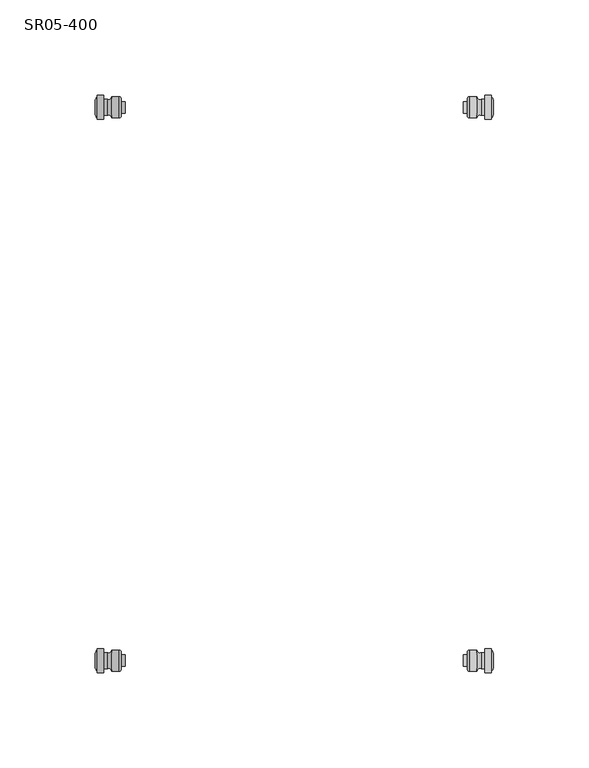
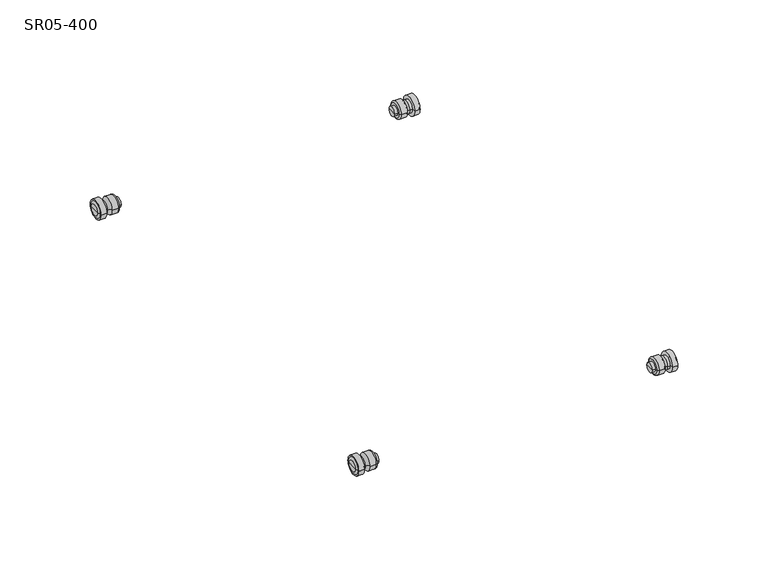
"""IFC4 building model written with IfcOpenShell, lengths in millimetres: proxy geometry, Уголки : SR05-400."""

from ifc_helpers import new_model, si_unit, point, frame, origin, place, context, project, spatial, circle_curve, ellipse_curve, trimmed, source, transform, mapped, element, save
from ifc_brep_helpers import plane_surface, cylinder_surface, revolved_surface, advanced_brep


def sr05_400_26692d24(model_context):
    return source(origin(), model_context, "Body", "AdvancedBrep", [
        advanced_brep(
        [(104.3500066, -145.0, 24.0), (104.3500066, -148.4999948, 24.0), (104.3500066, -141.5000052, 24.0), (88.7499958, -142.0000014, 24.0), (88.7499958, -147.9999986, 24.0), (88.7499958, -145.0, 24.0), (90.7999933, -142.0000014, 24.0), (90.7999933, -147.9999986, 24.0), (90.7999933, -140.5000058, 24.0), (90.7999933, -149.4999942, 24.0), (91.7999994, -139.5000052, 24.0), (91.7999994, -150.4999948, 24.0), (95.7999994, -139.5000038, 24.0), (95.7999994, -150.4999962, 24.0), (97.9999959, -140.8266569, 24.0), (97.9999959, -149.1733431, 24.0), (100.0, -138.7499985, 24.0), (100.0, -151.2500015, 24.0), (100.0, -149.1733431, 24.0), (100.0, -140.8266569, 24.0), (103.4999996, -138.7499985, 24.0), (103.4999996, -151.2500015, 24.0), (103.4999996, -139.6218414, 24.0), (103.4999996, -150.3781586, 24.0)],
        [
            (0, 1),
            (1, 2, circle_curve(frame((104.3500066, -145.0, 24.0), z_axis=(1.0, 0.0, 0.0), x_axis=(0.0, -1.0, 0.0)), 3.4999948)),
            (2, 0),
            (2, 1, circle_curve(frame((104.3500066, -145.0, 24.0), z_axis=(1.0, 0.0, 0.0), x_axis=(0.0, -1.0, 0.0)), 3.4999948)),
            (3, 4, circle_curve(frame((88.7499958, -145.0, 24.0), z_axis=(-1.0, 0.0, 0.0), x_axis=(0.0, -1.0, 0.0)), 2.9999986)),
            (4, 5),
            (5, 3),
            (4, 3, circle_curve(frame((88.7499958, -145.0, 24.0), z_axis=(-1.0, 0.0, 0.0), x_axis=(0.0, -1.0, 0.0)), 2.9999986)),
            (6, 7, circle_curve(frame((90.7999933, -145.0, 24.0), z_axis=(-1.0, 0.0, 0.0), x_axis=(0.0, -1.0, 0.0)), 2.9999986)),
            (7, 4),
            (3, 6),
            (7, 6, circle_curve(frame((90.7999933, -145.0, 24.0), z_axis=(-1.0, 0.0, 0.0), x_axis=(0.0, -1.0, 0.0)), 2.9999986)),
            (8, 9, circle_curve(frame((90.7999933, -145.0, 24.0), z_axis=(-1.0, 0.0, 0.0), x_axis=(0.0, -1.0, 0.0)), 4.4999942)),
            (9, 7),
            (6, 8),
            (9, 8, circle_curve(frame((90.7999933, -145.0, 24.0), z_axis=(-1.0, 0.0, 0.0), x_axis=(0.0, -1.0, 0.0)), 4.4999942)),
            (10, 11, circle_curve(frame((91.7999994, -145.0, 24.0), z_axis=(-1.0, 0.0, 0.0), x_axis=(0.0, -1.0, 0.0)), 5.4999948)),
            (11, 9, circle_curve(frame((91.7999994, -149.4999948, 24.0), z_axis=(0.0, 0.0, -1.0), x_axis=(0.0, 1.0, 0.0)), 1.0)),
            (8, 10, circle_curve(frame((91.7999994, -140.5000052, 24.0), z_axis=(0.0, 0.0, -1.0), x_axis=(0.0, -1.0, 0.0)), 1.0)),
            (11, 10, circle_curve(frame((91.7999994, -145.0, 24.0), z_axis=(-1.0, 0.0, 0.0), x_axis=(0.0, -1.0, 0.0)), 5.4999948)),
            (12, 13, circle_curve(frame((95.7999994, -145.0, 24.0), z_axis=(-1.0, 0.0, 0.0), x_axis=(0.0, -1.0, 0.0)), 5.4999962)),
            (13, 11),
            (10, 12),
            (13, 12, circle_curve(frame((95.7999994, -145.0, 24.0), z_axis=(-1.0, 0.0, 0.0), x_axis=(0.0, -1.0, 0.0)), 5.4999962)),
            (14, 15, circle_curve(frame((97.9999959, -145.0, 24.0), z_axis=(-1.0, 0.0, 0.0), x_axis=(0.0, -1.0, 0.0)), 4.1733431)),
            (15, 13, circle_curve(frame((97.2999994, -150.4999948, 24.0), z_axis=(0.0, 0.0, 1.0), x_axis=(0.0, 1.0, 0.0)), 1.5)),
            (12, 14, circle_curve(frame((97.2999994, -139.5000052, 24.0), z_axis=(0.0, 0.0, 1.0), x_axis=(0.0, -1.0, 0.0)), 1.5)),
            (15, 14, circle_curve(frame((97.9999959, -145.0, 24.0), z_axis=(-1.0, 0.0, 0.0), x_axis=(0.0, -1.0, 0.0)), 4.1733431)),
            (16, 17, circle_curve(frame((100.0, -145.0, 24.0), z_axis=(-1.0, 0.0, 0.0), x_axis=(0.0, -1.0, 0.0)), 6.2500015)),
            (17, 18),
            (18, 19, circle_curve(frame((100.0, -145.0, 24.0), z_axis=(1.0, 0.0, 0.0), x_axis=(0.0, -1.0, 0.0)), 4.1733431)),
            (19, 16),
            (17, 16, circle_curve(frame((100.0, -145.0, 24.0), z_axis=(-1.0, 0.0, 0.0), x_axis=(0.0, -1.0, 0.0)), 6.2500015)),
            (19, 18, circle_curve(frame((100.0, -145.0, 24.0), z_axis=(1.0, 0.0, 0.0), x_axis=(0.0, -1.0, 0.0)), 4.1733431)),
            (20, 21, circle_curve(frame((103.4999996, -145.0, 24.0), z_axis=(-1.0, 0.0, 0.0), x_axis=(0.0, -1.0, 0.0)), 6.2500015)),
            (21, 17),
            (16, 20),
            (21, 20, circle_curve(frame((103.4999996, -145.0, 24.0), z_axis=(-1.0, 0.0, 0.0), x_axis=(0.0, -1.0, 0.0)), 6.2500015)),
            (22, 23, circle_curve(frame((103.4999996, -145.0, 24.0), z_axis=(-1.0, 0.0, 0.0), x_axis=(0.0, -1.0, 0.0)), 5.3781586)),
            (23, 21),
            (20, 22),
            (23, 22, circle_curve(frame((103.4999996, -145.0, 24.0), z_axis=(-1.0, 0.0, 0.0), x_axis=(0.0, -1.0, 0.0)), 5.3781586)),
            (1, 23, circle_curve(frame((101.8499994, -148.4999948, 24.0), z_axis=(0.0, 0.0, -1.0), x_axis=(0.0, 1.0, 0.0)), 2.5)),
            (22, 2, circle_curve(frame((101.8499994, -141.5000052, 24.0), z_axis=(0.0, 0.0, -1.0), x_axis=(0.0, -1.0, 0.0)), 2.5)),
            (18, 15),
            (14, 19),
        ],
        [
            plane_surface(frame((104.3500066, -145.0, 24.0), z_axis=(1.0, 0.0, 0.0), x_axis=(0.0, -1.0, 0.0))),
            plane_surface(frame((88.7499958, -145.0, 24.0), z_axis=(-1.0, 0.0, 0.0), x_axis=(0.0, -1.0, 0.0))),
            cylinder_surface(frame((-1900.0, -145.0, 24.0), z_axis=(1.0, 0.0, 0.0), x_axis=(0.0, -1.0, 0.0)), 2.9999986),
            plane_surface(frame((90.7999933, -145.0, 24.0), z_axis=(-1.0, 0.0, 0.0), x_axis=(0.0, -1.0, 0.0))),
            revolved_surface(trimmed(ellipse_curve(frame((91.7999994, -149.4999948, 24.0), z_axis=(0.0, 0.0, 1.0), x_axis=(0.0, 1.0, 0.0)), 1.0, 1.0), [point((90.7999994, -149.4999948, 24.0))], [point((91.7999994, -150.4999948, 24.0))], True, "CARTESIAN"), (-1900.0, -145.0, 24.0), (1.0, 0.0, 0.0)),
            cylinder_surface(frame((-1900.0, -145.0, 24.0), z_axis=(1.0, 0.0, 0.0), x_axis=(0.0, -1.0, 0.0)), 5.4999962),
            revolved_surface(trimmed(ellipse_curve(frame((97.2999994, -150.4999948, 24.0), z_axis=(0.0, 0.0, -1.0), x_axis=(0.0, 1.0, 0.0)), 1.5, 1.5), [point((95.7999994, -150.4999962, 24.0))], [point((97.9999959, -149.1733431, 24.0))], True, "CARTESIAN"), (-1900.0, -145.0, 24.0), (1.0, 0.0, 0.0)),
            plane_surface(frame((100.0, -145.0, 24.0), z_axis=(-1.0, 0.0, 0.0), x_axis=(0.0, -1.0, 0.0))),
            cylinder_surface(frame((-1900.0, -145.0, 24.0), z_axis=(1.0, 0.0, 0.0), x_axis=(0.0, -1.0, 0.0)), 6.2500015),
            plane_surface(frame((103.4999996, -145.0, 24.0), z_axis=(1.0, 0.0, 0.0), x_axis=(0.0, -1.0, 0.0))),
            revolved_surface(trimmed(ellipse_curve(frame((101.8499994, -148.4999948, 24.0), z_axis=(0.0, 0.0, 1.0), x_axis=(0.0, 1.0, 0.0)), 2.5, 2.5), [point((103.4999996, -150.3781586, 24.0))], [point((104.3499994, -148.4999948, 24.0))], True, "CARTESIAN"), (-1900.0, -145.0, 24.0), (1.0, 0.0, 0.0)),
            cylinder_surface(frame((-1900.0, -145.0, 24.0), z_axis=(1.0, 0.0, 0.0), x_axis=(0.0, -1.0, 0.0)), 4.1733431),
        ],
        [
            (0, [[1, 2, 3]]),
            (0, [[-3, 4, -1]]),
            (1, [[5, 6, 7]]),
            (1, [[8, -7, -6]]),
            (2, [[9, 10, -5, 11]]),
            (2, [[12, -11, -8, -10]]),
            (3, [[13, 14, -9, 15]]),
            (3, [[16, -15, -12, -14]]),
            (4, [[17, 18, -13, 19]]),
            (4, [[20, -19, -16, -18]]),
            (5, [[21, 22, -17, 23]]),
            (5, [[24, -23, -20, -22]]),
            (6, [[25, 26, -21, 27]]),
            (6, [[28, -27, -24, -26]]),
            (7, [[29, 30, 31, 32]]),
            (7, [[33, -32, 34, -30]]),
            (8, [[35, 36, -29, 37]]),
            (8, [[38, -37, -33, -36]]),
            (9, [[39, 40, -35, 41]]),
            (9, [[42, -41, -38, -40]]),
            (10, [[-2, 43, -39, 44]]),
            (10, [[-4, -44, -42, -43]]),
            (11, [[-31, 45, -25, 46]]),
            (11, [[-34, -46, -28, -45]]),
        ],
    ),
        advanced_brep(
        [(104.3500066, 145.0, 24.0), (104.3500066, 141.5000052, 24.0), (104.3500066, 148.4999948, 24.0), (88.7499958, 147.9999986, 24.0), (88.7499958, 142.0000014, 24.0), (88.7499958, 145.0, 24.0), (90.7999933, 147.9999986, 24.0), (90.7999933, 142.0000014, 24.0), (90.7999933, 149.4999942, 24.0), (90.7999933, 140.5000058, 24.0), (91.7999994, 150.4999948, 24.0), (91.7999994, 139.5000052, 24.0), (95.7999994, 150.4999962, 24.0), (95.7999994, 139.5000038, 24.0), (97.9999959, 149.1733431, 24.0), (97.9999959, 140.8266569, 24.0), (100.0, 151.2500015, 24.0), (100.0, 138.7499985, 24.0), (100.0, 140.8266569, 24.0), (100.0, 149.1733431, 24.0), (103.4999996, 151.2500015, 24.0), (103.4999996, 138.7499985, 24.0), (103.4999996, 150.3781586, 24.0), (103.4999996, 139.6218414, 24.0)],
        [
            (0, 1),
            (1, 2, circle_curve(frame((104.3500066, 145.0, 24.0), z_axis=(1.0, 0.0, 0.0), x_axis=(0.0, -1.0, 0.0)), 3.4999948)),
            (2, 0),
            (2, 1, circle_curve(frame((104.3500066, 145.0, 24.0), z_axis=(1.0, 0.0, 0.0), x_axis=(0.0, -1.0, 0.0)), 3.4999948)),
            (3, 4, circle_curve(frame((88.7499958, 145.0, 24.0), z_axis=(-1.0, 0.0, 0.0), x_axis=(0.0, -1.0, 0.0)), 2.9999986)),
            (4, 5),
            (5, 3),
            (4, 3, circle_curve(frame((88.7499958, 145.0, 24.0), z_axis=(-1.0, 0.0, 0.0), x_axis=(0.0, -1.0, 0.0)), 2.9999986)),
            (6, 7, circle_curve(frame((90.7999933, 145.0, 24.0), z_axis=(-1.0, 0.0, 0.0), x_axis=(0.0, -1.0, 0.0)), 2.9999986)),
            (7, 4),
            (3, 6),
            (7, 6, circle_curve(frame((90.7999933, 145.0, 24.0), z_axis=(-1.0, 0.0, 0.0), x_axis=(0.0, -1.0, 0.0)), 2.9999986)),
            (8, 9, circle_curve(frame((90.7999933, 145.0, 24.0), z_axis=(-1.0, 0.0, 0.0), x_axis=(0.0, -1.0, 0.0)), 4.4999942)),
            (9, 7),
            (6, 8),
            (9, 8, circle_curve(frame((90.7999933, 145.0, 24.0), z_axis=(-1.0, 0.0, 0.0), x_axis=(0.0, -1.0, 0.0)), 4.4999942)),
            (10, 11, circle_curve(frame((91.7999994, 145.0, 24.0), z_axis=(-1.0, 0.0, 0.0), x_axis=(0.0, -1.0, 0.0)), 5.4999948)),
            (11, 9, circle_curve(frame((91.7999994, 140.5000052, 24.0), z_axis=(0.0, 0.0, -1.0), x_axis=(0.0, 1.0, 0.0)), 1.0)),
            (8, 10, circle_curve(frame((91.7999994, 149.4999948, 24.0), z_axis=(0.0, 0.0, -1.0), x_axis=(0.0, -1.0, 0.0)), 1.0)),
            (11, 10, circle_curve(frame((91.7999994, 145.0, 24.0), z_axis=(-1.0, 0.0, 0.0), x_axis=(0.0, -1.0, 0.0)), 5.4999948)),
            (12, 13, circle_curve(frame((95.7999994, 145.0, 24.0), z_axis=(-1.0, 0.0, 0.0), x_axis=(0.0, -1.0, 0.0)), 5.4999962)),
            (13, 11),
            (10, 12),
            (13, 12, circle_curve(frame((95.7999994, 145.0, 24.0), z_axis=(-1.0, 0.0, 0.0), x_axis=(0.0, -1.0, 0.0)), 5.4999962)),
            (14, 15, circle_curve(frame((97.9999959, 145.0, 24.0), z_axis=(-1.0, 0.0, 0.0), x_axis=(0.0, -1.0, 0.0)), 4.1733431)),
            (15, 13, circle_curve(frame((97.2999994, 139.5000052, 24.0), z_axis=(0.0, 0.0, 1.0), x_axis=(0.0, 1.0, 0.0)), 1.5)),
            (12, 14, circle_curve(frame((97.2999994, 150.4999948, 24.0), z_axis=(0.0, 0.0, 1.0), x_axis=(0.0, -1.0, 0.0)), 1.5)),
            (15, 14, circle_curve(frame((97.9999959, 145.0, 24.0), z_axis=(-1.0, 0.0, 0.0), x_axis=(0.0, -1.0, 0.0)), 4.1733431)),
            (16, 17, circle_curve(frame((100.0, 145.0, 24.0), z_axis=(-1.0, 0.0, 0.0), x_axis=(0.0, -1.0, 0.0)), 6.2500015)),
            (17, 18),
            (18, 19, circle_curve(frame((100.0, 145.0, 24.0), z_axis=(1.0, 0.0, 0.0), x_axis=(0.0, -1.0, 0.0)), 4.1733431)),
            (19, 16),
            (17, 16, circle_curve(frame((100.0, 145.0, 24.0), z_axis=(-1.0, 0.0, 0.0), x_axis=(0.0, -1.0, 0.0)), 6.2500015)),
            (19, 18, circle_curve(frame((100.0, 145.0, 24.0), z_axis=(1.0, 0.0, 0.0), x_axis=(0.0, -1.0, 0.0)), 4.1733431)),
            (20, 21, circle_curve(frame((103.4999996, 145.0, 24.0), z_axis=(-1.0, 0.0, 0.0), x_axis=(0.0, -1.0, 0.0)), 6.2500015)),
            (21, 17),
            (16, 20),
            (21, 20, circle_curve(frame((103.4999996, 145.0, 24.0), z_axis=(-1.0, 0.0, 0.0), x_axis=(0.0, -1.0, 0.0)), 6.2500015)),
            (22, 23, circle_curve(frame((103.4999996, 145.0, 24.0), z_axis=(-1.0, 0.0, 0.0), x_axis=(0.0, -1.0, 0.0)), 5.3781586)),
            (23, 21),
            (20, 22),
            (23, 22, circle_curve(frame((103.4999996, 145.0, 24.0), z_axis=(-1.0, 0.0, 0.0), x_axis=(0.0, -1.0, 0.0)), 5.3781586)),
            (1, 23, circle_curve(frame((101.8499994, 141.5000052, 24.0), z_axis=(0.0, 0.0, -1.0), x_axis=(0.0, 1.0, 0.0)), 2.5)),
            (22, 2, circle_curve(frame((101.8499994, 148.4999948, 24.0), z_axis=(0.0, 0.0, -1.0), x_axis=(0.0, -1.0, 0.0)), 2.5)),
            (18, 15),
            (14, 19),
        ],
        [
            plane_surface(frame((104.3500066, 145.0, 24.0), z_axis=(1.0, 0.0, 0.0), x_axis=(0.0, -1.0, 0.0))),
            plane_surface(frame((88.7499958, 145.0, 24.0), z_axis=(-1.0, 0.0, 0.0), x_axis=(0.0, -1.0, 0.0))),
            cylinder_surface(frame((-1900.0, 145.0, 24.0), z_axis=(1.0, 0.0, 0.0), x_axis=(0.0, -1.0, 0.0)), 2.9999986),
            plane_surface(frame((90.7999933, 145.0, 24.0), z_axis=(-1.0, 0.0, 0.0), x_axis=(0.0, -1.0, 0.0))),
            revolved_surface(trimmed(ellipse_curve(frame((91.7999994, 140.5000052, 24.0), z_axis=(0.0, 0.0, 1.0), x_axis=(0.0, 1.0, 0.0)), 1.0, 1.0), [point((90.7999994, 140.5000052, 24.0))], [point((91.7999994, 139.5000052, 24.0))], True, "CARTESIAN"), (-1900.0, 145.0, 24.0), (1.0, 0.0, 0.0)),
            cylinder_surface(frame((-1900.0, 145.0, 24.0), z_axis=(1.0, 0.0, 0.0), x_axis=(0.0, -1.0, 0.0)), 5.4999962),
            revolved_surface(trimmed(ellipse_curve(frame((97.2999994, 139.5000052, 24.0), z_axis=(0.0, 0.0, -1.0), x_axis=(0.0, 1.0, 0.0)), 1.5, 1.5), [point((95.7999994, 139.5000038, 24.0))], [point((97.9999959, 140.8266569, 24.0))], True, "CARTESIAN"), (-1900.0, 145.0, 24.0), (1.0, 0.0, 0.0)),
            plane_surface(frame((100.0, 145.0, 24.0), z_axis=(-1.0, 0.0, 0.0), x_axis=(0.0, -1.0, 0.0))),
            cylinder_surface(frame((-1900.0, 145.0, 24.0), z_axis=(1.0, 0.0, 0.0), x_axis=(0.0, -1.0, 0.0)), 6.2500015),
            plane_surface(frame((103.4999996, 145.0, 24.0), z_axis=(1.0, 0.0, 0.0), x_axis=(0.0, -1.0, 0.0))),
            revolved_surface(trimmed(ellipse_curve(frame((101.8499994, 141.5000052, 24.0), z_axis=(0.0, 0.0, 1.0), x_axis=(0.0, 1.0, 0.0)), 2.5, 2.5), [point((103.4999996, 139.6218414, 24.0))], [point((104.3499994, 141.5000052, 24.0))], True, "CARTESIAN"), (-1900.0, 145.0, 24.0), (1.0, 0.0, 0.0)),
            cylinder_surface(frame((-1900.0, 145.0, 24.0), z_axis=(1.0, 0.0, 0.0), x_axis=(0.0, -1.0, 0.0)), 4.1733431),
        ],
        [
            (0, [[1, 2, 3]]),
            (0, [[-3, 4, -1]]),
            (1, [[5, 6, 7]]),
            (1, [[8, -7, -6]]),
            (2, [[9, 10, -5, 11]]),
            (2, [[12, -11, -8, -10]]),
            (3, [[13, 14, -9, 15]]),
            (3, [[16, -15, -12, -14]]),
            (4, [[17, 18, -13, 19]]),
            (4, [[20, -19, -16, -18]]),
            (5, [[21, 22, -17, 23]]),
            (5, [[24, -23, -20, -22]]),
            (6, [[25, 26, -21, 27]]),
            (6, [[28, -27, -24, -26]]),
            (7, [[29, 30, 31, 32]]),
            (7, [[33, -32, 34, -30]]),
            (8, [[35, 36, -29, 37]]),
            (8, [[38, -37, -33, -36]]),
            (9, [[39, 40, -35, 41]]),
            (9, [[42, -41, -38, -40]]),
            (10, [[-2, 43, -39, 44]]),
            (10, [[-4, -44, -42, -43]]),
            (11, [[-31, 45, -25, 46]]),
            (11, [[-34, -46, -28, -45]]),
        ],
    ),
        advanced_brep(
        [(-104.3500066, 145.0, 24.0), (-104.3500066, 148.4999948, 24.0), (-104.3500066, 141.5000052, 24.0), (-88.7499958, 142.0000014, 24.0), (-88.7499958, 147.9999986, 24.0), (-88.7499958, 145.0, 24.0), (-90.7999933, 142.0000014, 24.0), (-90.7999933, 147.9999986, 24.0), (-90.7999933, 140.5000058, 24.0), (-90.7999933, 149.4999942, 24.0), (-91.7999994, 139.5000052, 24.0), (-91.7999994, 150.4999948, 24.0), (-95.7999994, 139.5000038, 24.0), (-95.7999994, 150.4999962, 24.0), (-97.9999959, 140.8266569, 24.0), (-97.9999959, 149.1733431, 24.0), (-100.0, 138.7499985, 24.0), (-100.0, 151.2500015, 24.0), (-100.0, 149.1733431, 24.0), (-100.0, 140.8266569, 24.0), (-103.4999996, 138.7499985, 24.0), (-103.4999996, 151.2500015, 24.0), (-103.4999996, 139.6218414, 24.0), (-103.4999996, 150.3781586, 24.0)],
        [
            (0, 1),
            (1, 2, circle_curve(frame((-104.3500066, 145.0, 24.0), z_axis=(-1.0, 0.0, 0.0), x_axis=(0.0, 1.0, 0.0)), 3.4999948)),
            (2, 0),
            (2, 1, circle_curve(frame((-104.3500066, 145.0, 24.0), z_axis=(-1.0, 0.0, 0.0), x_axis=(0.0, 1.0, 0.0)), 3.4999948)),
            (3, 4, circle_curve(frame((-88.7499958, 145.0, 24.0), z_axis=(1.0, 0.0, 0.0), x_axis=(0.0, 1.0, 0.0)), 2.9999986)),
            (4, 5),
            (5, 3),
            (4, 3, circle_curve(frame((-88.7499958, 145.0, 24.0), z_axis=(1.0, 0.0, 0.0), x_axis=(0.0, 1.0, 0.0)), 2.9999986)),
            (6, 7, circle_curve(frame((-90.7999933, 145.0, 24.0), z_axis=(1.0, 0.0, 0.0), x_axis=(0.0, 1.0, 0.0)), 2.9999986)),
            (7, 4),
            (3, 6),
            (7, 6, circle_curve(frame((-90.7999933, 145.0, 24.0), z_axis=(1.0, 0.0, 0.0), x_axis=(0.0, 1.0, 0.0)), 2.9999986)),
            (8, 9, circle_curve(frame((-90.7999933, 145.0, 24.0), z_axis=(1.0, 0.0, 0.0), x_axis=(0.0, 1.0, 0.0)), 4.4999942)),
            (9, 7),
            (6, 8),
            (9, 8, circle_curve(frame((-90.7999933, 145.0, 24.0), z_axis=(1.0, 0.0, 0.0), x_axis=(0.0, 1.0, 0.0)), 4.4999942)),
            (10, 11, circle_curve(frame((-91.7999994, 145.0, 24.0), z_axis=(1.0, 0.0, 0.0), x_axis=(0.0, 1.0, 0.0)), 5.4999948)),
            (11, 9, circle_curve(frame((-91.7999994, 149.4999948, 24.0), z_axis=(0.0, 0.0, -1.0), x_axis=(0.0, -1.0, 0.0)), 1.0)),
            (8, 10, circle_curve(frame((-91.7999994, 140.5000052, 24.0), z_axis=(0.0, 0.0, -1.0), x_axis=(0.0, 1.0, 0.0)), 1.0)),
            (11, 10, circle_curve(frame((-91.7999994, 145.0, 24.0), z_axis=(1.0, 0.0, 0.0), x_axis=(0.0, 1.0, 0.0)), 5.4999948)),
            (12, 13, circle_curve(frame((-95.7999994, 145.0, 24.0), z_axis=(1.0, 0.0, 0.0), x_axis=(0.0, 1.0, 0.0)), 5.4999962)),
            (13, 11),
            (10, 12),
            (13, 12, circle_curve(frame((-95.7999994, 145.0, 24.0), z_axis=(1.0, 0.0, 0.0), x_axis=(0.0, 1.0, 0.0)), 5.4999962)),
            (14, 15, circle_curve(frame((-97.9999959, 145.0, 24.0), z_axis=(1.0, 0.0, 0.0), x_axis=(0.0, 1.0, 0.0)), 4.1733431)),
            (15, 13, circle_curve(frame((-97.2999994, 150.4999948, 24.0), z_axis=(0.0, 0.0, 1.0), x_axis=(0.0, -1.0, 0.0)), 1.5)),
            (12, 14, circle_curve(frame((-97.2999994, 139.5000052, 24.0), z_axis=(0.0, 0.0, 1.0), x_axis=(0.0, 1.0, 0.0)), 1.5)),
            (15, 14, circle_curve(frame((-97.9999959, 145.0, 24.0), z_axis=(1.0, 0.0, 0.0), x_axis=(0.0, 1.0, 0.0)), 4.1733431)),
            (16, 17, circle_curve(frame((-100.0, 145.0, 24.0), z_axis=(1.0, 0.0, 0.0), x_axis=(0.0, 1.0, 0.0)), 6.2500015)),
            (17, 18),
            (18, 19, circle_curve(frame((-100.0, 145.0, 24.0), z_axis=(-1.0, 0.0, 0.0), x_axis=(0.0, 1.0, 0.0)), 4.1733431)),
            (19, 16),
            (17, 16, circle_curve(frame((-100.0, 145.0, 24.0), z_axis=(1.0, 0.0, 0.0), x_axis=(0.0, 1.0, 0.0)), 6.2500015)),
            (19, 18, circle_curve(frame((-100.0, 145.0, 24.0), z_axis=(-1.0, 0.0, 0.0), x_axis=(0.0, 1.0, 0.0)), 4.1733431)),
            (20, 21, circle_curve(frame((-103.4999996, 145.0, 24.0), z_axis=(1.0, 0.0, 0.0), x_axis=(0.0, 1.0, 0.0)), 6.2500015)),
            (21, 17),
            (16, 20),
            (21, 20, circle_curve(frame((-103.4999996, 145.0, 24.0), z_axis=(1.0, 0.0, 0.0), x_axis=(0.0, 1.0, 0.0)), 6.2500015)),
            (22, 23, circle_curve(frame((-103.4999996, 145.0, 24.0), z_axis=(1.0, 0.0, 0.0), x_axis=(0.0, 1.0, 0.0)), 5.3781586)),
            (23, 21),
            (20, 22),
            (23, 22, circle_curve(frame((-103.4999996, 145.0, 24.0), z_axis=(1.0, 0.0, 0.0), x_axis=(0.0, 1.0, 0.0)), 5.3781586)),
            (1, 23, circle_curve(frame((-101.8499994, 148.4999948, 24.0), z_axis=(0.0, 0.0, -1.0), x_axis=(0.0, -1.0, 0.0)), 2.5)),
            (22, 2, circle_curve(frame((-101.8499994, 141.5000052, 24.0), z_axis=(0.0, 0.0, -1.0), x_axis=(0.0, 1.0, 0.0)), 2.5)),
            (18, 15),
            (14, 19),
        ],
        [
            plane_surface(frame((-104.3500066, 145.0, 24.0), z_axis=(-1.0, 0.0, 0.0), x_axis=(0.0, 1.0, 0.0))),
            plane_surface(frame((-88.7499958, 145.0, 24.0), z_axis=(1.0, 0.0, 0.0), x_axis=(0.0, 1.0, 0.0))),
            cylinder_surface(frame((1900.0, 145.0, 24.0), z_axis=(-1.0, 0.0, 0.0), x_axis=(0.0, 1.0, 0.0)), 2.9999986),
            plane_surface(frame((-90.7999933, 145.0, 24.0), z_axis=(1.0, 0.0, 0.0), x_axis=(0.0, 1.0, 0.0))),
            revolved_surface(trimmed(ellipse_curve(frame((-91.7999994, 149.4999948, 24.0), z_axis=(0.0, 0.0, 1.0), x_axis=(0.0, -1.0, 0.0)), 1.0, 1.0), [point((-90.7999994, 149.4999948, 24.0))], [point((-91.7999994, 150.4999948, 24.0))], True, "CARTESIAN"), (1900.0, 145.0, 24.0), (-1.0, 0.0, 0.0)),
            cylinder_surface(frame((1900.0, 145.0, 24.0), z_axis=(-1.0, 0.0, 0.0), x_axis=(0.0, 1.0, 0.0)), 5.4999962),
            revolved_surface(trimmed(ellipse_curve(frame((-97.2999994, 150.4999948, 24.0), z_axis=(0.0, 0.0, -1.0), x_axis=(0.0, -1.0, 0.0)), 1.5, 1.5), [point((-95.7999994, 150.4999962, 24.0))], [point((-97.9999959, 149.1733431, 24.0))], True, "CARTESIAN"), (1900.0, 145.0, 24.0), (-1.0, 0.0, 0.0)),
            plane_surface(frame((-100.0, 145.0, 24.0), z_axis=(1.0, 0.0, 0.0), x_axis=(0.0, 1.0, 0.0))),
            cylinder_surface(frame((1900.0, 145.0, 24.0), z_axis=(-1.0, 0.0, 0.0), x_axis=(0.0, 1.0, 0.0)), 6.2500015),
            plane_surface(frame((-103.4999996, 145.0, 24.0), z_axis=(-1.0, 0.0, 0.0), x_axis=(0.0, 1.0, 0.0))),
            revolved_surface(trimmed(ellipse_curve(frame((-101.8499994, 148.4999948, 24.0), z_axis=(0.0, 0.0, 1.0), x_axis=(0.0, -1.0, 0.0)), 2.5, 2.5), [point((-103.4999996, 150.3781586, 24.0))], [point((-104.3499994, 148.4999948, 24.0))], True, "CARTESIAN"), (1900.0, 145.0, 24.0), (-1.0, 0.0, 0.0)),
            cylinder_surface(frame((1900.0, 145.0, 24.0), z_axis=(-1.0, 0.0, 0.0), x_axis=(0.0, 1.0, 0.0)), 4.1733431),
        ],
        [
            (0, [[1, 2, 3]]),
            (0, [[-3, 4, -1]]),
            (1, [[5, 6, 7]]),
            (1, [[8, -7, -6]]),
            (2, [[9, 10, -5, 11]]),
            (2, [[12, -11, -8, -10]]),
            (3, [[13, 14, -9, 15]]),
            (3, [[16, -15, -12, -14]]),
            (4, [[17, 18, -13, 19]]),
            (4, [[20, -19, -16, -18]]),
            (5, [[21, 22, -17, 23]]),
            (5, [[24, -23, -20, -22]]),
            (6, [[25, 26, -21, 27]]),
            (6, [[28, -27, -24, -26]]),
            (7, [[29, 30, 31, 32]]),
            (7, [[33, -32, 34, -30]]),
            (8, [[35, 36, -29, 37]]),
            (8, [[38, -37, -33, -36]]),
            (9, [[39, 40, -35, 41]]),
            (9, [[42, -41, -38, -40]]),
            (10, [[-2, 43, -39, 44]]),
            (10, [[-4, -44, -42, -43]]),
            (11, [[-31, 45, -25, 46]]),
            (11, [[-34, -46, -28, -45]]),
        ],
    ),
        advanced_brep(
        [(-104.3500066, -145.0, 24.0), (-104.3500066, -141.5000052, 24.0), (-104.3500066, -148.4999948, 24.0), (-88.7499958, -147.9999986, 24.0), (-88.7499958, -142.0000014, 24.0), (-88.7499958, -145.0, 24.0), (-90.7999933, -147.9999986, 24.0), (-90.7999933, -142.0000014, 24.0), (-90.7999933, -149.4999942, 24.0), (-90.7999933, -140.5000058, 24.0), (-91.7999994, -150.4999948, 24.0), (-91.7999994, -139.5000052, 24.0), (-95.7999994, -150.4999962, 24.0), (-95.7999994, -139.5000038, 24.0), (-97.9999959, -149.1733431, 24.0), (-97.9999959, -140.8266569, 24.0), (-100.0, -151.2500015, 24.0), (-100.0, -138.7499985, 24.0), (-100.0, -140.8266569, 24.0), (-100.0, -149.1733431, 24.0), (-103.4999996, -151.2500015, 24.0), (-103.4999996, -138.7499985, 24.0), (-103.4999996, -150.3781586, 24.0), (-103.4999996, -139.6218414, 24.0)],
        [
            (0, 1),
            (1, 2, circle_curve(frame((-104.3500066, -145.0, 24.0), z_axis=(-1.0, 0.0, 0.0), x_axis=(0.0, 1.0000000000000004, 0.0)), 3.4999948)),
            (2, 0),
            (2, 1, circle_curve(frame((-104.3500066, -145.0, 24.0), z_axis=(-1.0, 0.0, 0.0), x_axis=(0.0, 1.0000000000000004, 0.0)), 3.4999948)),
            (3, 4, circle_curve(frame((-88.7499958, -145.0, 24.0), z_axis=(1.0, 0.0, 0.0), x_axis=(0.0, 1.0000000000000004, 0.0)), 2.9999986)),
            (4, 5),
            (5, 3),
            (4, 3, circle_curve(frame((-88.7499958, -145.0, 24.0), z_axis=(1.0, 0.0, 0.0), x_axis=(0.0, 1.0000000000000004, 0.0)), 2.9999986)),
            (6, 7, circle_curve(frame((-90.7999933, -145.0, 24.0), z_axis=(1.0, 0.0, 0.0), x_axis=(0.0, 1.0000000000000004, 0.0)), 2.9999986)),
            (7, 4),
            (3, 6),
            (7, 6, circle_curve(frame((-90.7999933, -145.0, 24.0), z_axis=(1.0, 0.0, 0.0), x_axis=(0.0, 1.0000000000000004, 0.0)), 2.9999986)),
            (8, 9, circle_curve(frame((-90.7999933, -145.0, 24.0), z_axis=(1.0, 0.0, 0.0), x_axis=(0.0, 1.0000000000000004, 0.0)), 4.4999942)),
            (9, 7),
            (6, 8),
            (9, 8, circle_curve(frame((-90.7999933, -145.0, 24.0), z_axis=(1.0, 0.0, 0.0), x_axis=(0.0, 1.0000000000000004, 0.0)), 4.4999942)),
            (10, 11, circle_curve(frame((-91.7999994, -145.0, 24.0), z_axis=(1.0, 0.0, 0.0), x_axis=(0.0, 1.0000000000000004, 0.0)), 5.4999948)),
            (11, 9, circle_curve(frame((-91.7999994, -140.5000052, 24.0), z_axis=(0.0, 0.0, -1.0), x_axis=(0.0, -1.0000000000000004, 0.0)), 1.0)),
            (8, 10, circle_curve(frame((-91.7999994, -149.4999948, 24.0), z_axis=(0.0, 0.0, -1.0), x_axis=(0.0, 1.0000000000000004, 0.0)), 1.0)),
            (11, 10, circle_curve(frame((-91.7999994, -145.0, 24.0), z_axis=(1.0, 0.0, 0.0), x_axis=(0.0, 1.0000000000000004, 0.0)), 5.4999948)),
            (12, 13, circle_curve(frame((-95.7999994, -145.0, 24.0), z_axis=(1.0, 0.0, 0.0), x_axis=(0.0, 1.0000000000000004, 0.0)), 5.4999962)),
            (13, 11),
            (10, 12),
            (13, 12, circle_curve(frame((-95.7999994, -145.0, 24.0), z_axis=(1.0, 0.0, 0.0), x_axis=(0.0, 1.0000000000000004, 0.0)), 5.4999962)),
            (14, 15, circle_curve(frame((-97.9999959, -145.0, 24.0), z_axis=(1.0, 0.0, 0.0), x_axis=(0.0, 1.0000000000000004, 0.0)), 4.1733431)),
            (15, 13, circle_curve(frame((-97.2999994, -139.5000052, 24.0), z_axis=(0.0, 0.0, 1.0), x_axis=(0.0, -1.0000000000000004, 0.0)), 1.5)),
            (12, 14, circle_curve(frame((-97.2999994, -150.4999948, 24.0), z_axis=(0.0, 0.0, 1.0), x_axis=(0.0, 1.0000000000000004, 0.0)), 1.5)),
            (15, 14, circle_curve(frame((-97.9999959, -145.0, 24.0), z_axis=(1.0, 0.0, 0.0), x_axis=(0.0, 1.0000000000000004, 0.0)), 4.1733431)),
            (16, 17, circle_curve(frame((-100.0, -145.0, 24.0), z_axis=(1.0, 0.0, 0.0), x_axis=(0.0, 1.0000000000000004, 0.0)), 6.2500015)),
            (17, 18),
            (18, 19, circle_curve(frame((-100.0, -145.0, 24.0), z_axis=(-1.0, 0.0, 0.0), x_axis=(0.0, 1.0000000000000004, 0.0)), 4.1733431)),
            (19, 16),
            (17, 16, circle_curve(frame((-100.0, -145.0, 24.0), z_axis=(1.0, 0.0, 0.0), x_axis=(0.0, 1.0000000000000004, 0.0)), 6.2500015)),
            (19, 18, circle_curve(frame((-100.0, -145.0, 24.0), z_axis=(-1.0, 0.0, 0.0), x_axis=(0.0, 1.0000000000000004, 0.0)), 4.1733431)),
            (20, 21, circle_curve(frame((-103.4999996, -145.0, 24.0), z_axis=(1.0, 0.0, 0.0), x_axis=(0.0, 1.0000000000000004, 0.0)), 6.2500015)),
            (21, 17),
            (16, 20),
            (21, 20, circle_curve(frame((-103.4999996, -145.0, 24.0), z_axis=(1.0, 0.0, 0.0), x_axis=(0.0, 1.0000000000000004, 0.0)), 6.2500015)),
            (22, 23, circle_curve(frame((-103.4999996, -145.0, 24.0), z_axis=(1.0, 0.0, 0.0), x_axis=(0.0, 1.0000000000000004, 0.0)), 5.3781586)),
            (23, 21),
            (20, 22),
            (23, 22, circle_curve(frame((-103.4999996, -145.0, 24.0), z_axis=(1.0, 0.0, 0.0), x_axis=(0.0, 1.0000000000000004, 0.0)), 5.3781586)),
            (1, 23, circle_curve(frame((-101.8499994, -141.5000052, 24.0), z_axis=(0.0, 0.0, -1.0), x_axis=(0.0, -1.0000000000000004, 0.0)), 2.5)),
            (22, 2, circle_curve(frame((-101.8499994, -148.4999948, 24.0), z_axis=(0.0, 0.0, -1.0), x_axis=(0.0, 1.0000000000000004, 0.0)), 2.5)),
            (18, 15),
            (14, 19),
        ],
        [
            plane_surface(frame((-104.3500066, -145.0, 24.0), z_axis=(-1.0, 0.0, 0.0), x_axis=(0.0, 1.0, 0.0))),
            plane_surface(frame((-88.7499958, -145.0, 24.0), z_axis=(1.0, 0.0, 0.0), x_axis=(0.0, 1.0, 0.0))),
            cylinder_surface(frame((1900.0, -145.0, 24.0), z_axis=(-1.0000000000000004, 0.0, 0.0), x_axis=(0.0, 1.0000000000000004, 0.0)), 2.9999986),
            plane_surface(frame((-90.7999933, -145.0, 24.0), z_axis=(1.0, 0.0, 0.0), x_axis=(0.0, 1.0, 0.0))),
            revolved_surface(trimmed(ellipse_curve(frame((-91.7999994, -140.5000052, 24.0), z_axis=(0.0, 0.0, 1.0), x_axis=(0.0, -1.0000000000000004, 0.0)), 1.0, 1.0), [point((-90.7999994, -140.5000052, 24.0))], [point((-91.7999994, -139.5000052, 24.0))], True, "CARTESIAN"), (1900.0, -145.0, 24.0), (-1.0000000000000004, 0.0, 0.0)),
            cylinder_surface(frame((1900.0, -145.0, 24.0), z_axis=(-1.0000000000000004, 0.0, 0.0), x_axis=(0.0, 1.0000000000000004, 0.0)), 5.4999962),
            revolved_surface(trimmed(ellipse_curve(frame((-97.2999994, -139.5000052, 24.0), z_axis=(0.0, 0.0, -1.0), x_axis=(0.0, -1.0000000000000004, 0.0)), 1.5, 1.5), [point((-95.7999994, -139.5000038, 24.0))], [point((-97.9999959, -140.8266569, 24.0))], True, "CARTESIAN"), (1900.0, -145.0, 24.0), (-1.0000000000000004, 0.0, 0.0)),
            plane_surface(frame((-100.0, -145.0, 24.0), z_axis=(1.0, 0.0, 0.0), x_axis=(0.0, 1.0, 0.0))),
            cylinder_surface(frame((1900.0, -145.0, 24.0), z_axis=(-1.0000000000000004, 0.0, 0.0), x_axis=(0.0, 1.0000000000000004, 0.0)), 6.2500015),
            plane_surface(frame((-103.4999996, -145.0, 24.0), z_axis=(-1.0, 0.0, 0.0), x_axis=(0.0, 1.0, 0.0))),
            revolved_surface(trimmed(ellipse_curve(frame((-101.8499994, -141.5000052, 24.0), z_axis=(0.0, 0.0, 1.0), x_axis=(0.0, -1.0000000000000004, 0.0)), 2.5, 2.5), [point((-103.4999996, -139.6218414, 24.0))], [point((-104.3499994, -141.5000052, 24.0))], True, "CARTESIAN"), (1900.0, -145.0, 24.0), (-1.0000000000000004, 0.0, 0.0)),
            cylinder_surface(frame((1900.0, -145.0, 24.0), z_axis=(-1.0000000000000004, 0.0, 0.0), x_axis=(0.0, 1.0000000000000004, 0.0)), 4.1733431),
        ],
        [
            (0, [[1, 2, 3]]),
            (0, [[-3, 4, -1]]),
            (1, [[5, 6, 7]]),
            (1, [[8, -7, -6]]),
            (2, [[9, 10, -5, 11]]),
            (2, [[12, -11, -8, -10]]),
            (3, [[13, 14, -9, 15]]),
            (3, [[16, -15, -12, -14]]),
            (4, [[17, 18, -13, 19]]),
            (4, [[20, -19, -16, -18]]),
            (5, [[21, 22, -17, 23]]),
            (5, [[24, -23, -20, -22]]),
            (6, [[25, 26, -21, 27]]),
            (6, [[28, -27, -24, -26]]),
            (7, [[29, 30, 31, 32]]),
            (7, [[33, -32, 34, -30]]),
            (8, [[35, 36, -29, 37]]),
            (8, [[38, -37, -33, -36]]),
            (9, [[39, 40, -35, 41]]),
            (9, [[42, -41, -38, -40]]),
            (10, [[-2, 43, -39, 44]]),
            (10, [[-4, -44, -42, -43]]),
            (11, [[-31, 45, -25, 46]]),
            (11, [[-34, -46, -28, -45]]),
        ],
    ),
    ])


if __name__ == "__main__":
    model = new_model("IFC4")
    model_context = context("Model", 3, world=origin())
    ifc_project = project(units=[si_unit("LENGTHUNIT", "METRE", prefix="MILLI")], contexts=[model_context])
    site = spatial("IfcSite", under=ifc_project)
    building = spatial("IfcBuilding", under=site)
    placement = place(None, origin())
    sr05_400_shape = sr05_400_26692d24(model_context)
    element("IfcBuildingElementProxy", 1, Name="Уголки : SR05-400", ObjectType="Уголки : SR05-400", at=placement, inside=building, context=model_context, shape_type="MappedRepresentation", body=[
        mapped(sr05_400_shape, transform((0.0, 0.0, 0.0), x_axis=(1.0, 0.0, 0.0), y_axis=(0.0, 1.0, 0.0), z_axis=(0.0, 0.0, 1.0))),
    ])
    save(model, "model.ifc")
